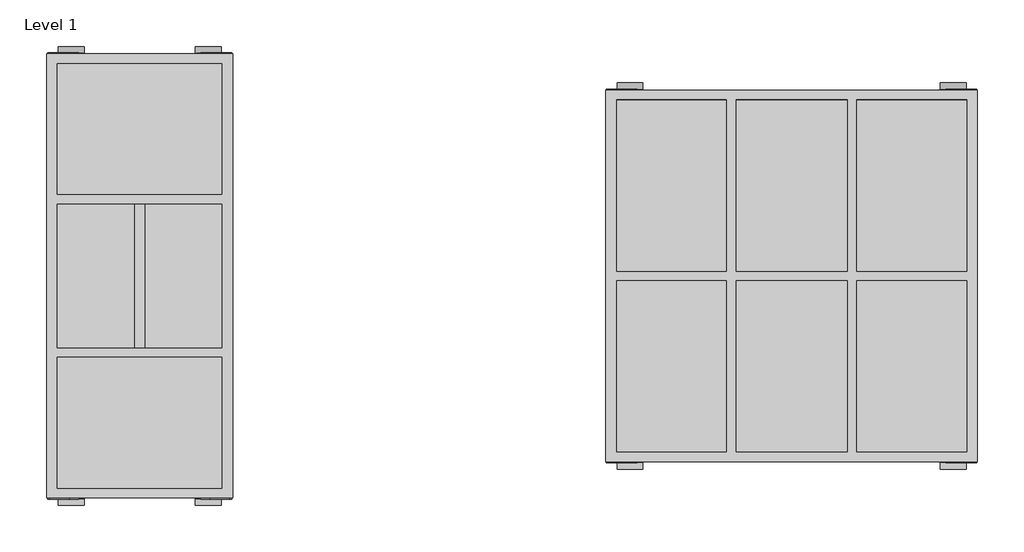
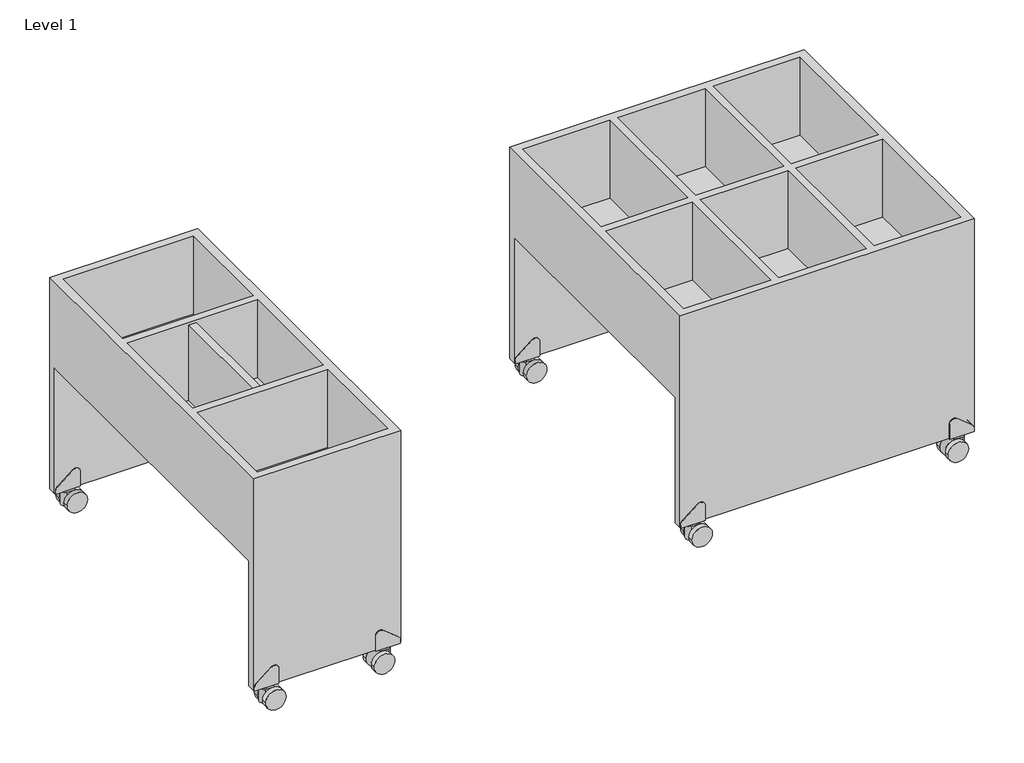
# One storey: 2 furniture elements.
"""IFC4 building model written with IfcOpenShell, lengths in millimetres."""

from ifc_helpers import new_model, si_unit, origin, place, context, project, spatial, transform, mapped, element, save
from components import furniture_59e1d00e, furniture_7b108c40

model = new_model("IFC4")

# Units and contexts
model_context = context("Model", 3, world=origin())
ifc_project = project(units=[si_unit("LENGTHUNIT", "METRE", prefix="MILLI")], contexts=[model_context])

# Site, building, storey
site = spatial("IfcSite", under=ifc_project)
building = spatial("IfcBuilding", under=site)
storey = spatial("IfcBuildingStorey", under=building, Name="Level 1", Elevation=0.0)

# Furniture
placement = place(None, origin())
furniture_shape = furniture_59e1d00e(model_context)
element("IfcFurniture", 1, ObjectType="BK Library - Mille - Bookbrowser Small : BK Library - Mille - Bookbrowser Small", at=placement, inside=storey, context=model_context, shape_type="MappedRepresentation", body=[
    mapped(furniture_shape, transform((-3149.7402318, 2197.9079464, -348.6569781), x_axis=(0.0, 1.0, 0.0), y_axis=(-1.0, 0.0, 0.0), z_axis=(0.0, 0.0, 1.0))),
])
furniture_2_shape = furniture_7b108c40(model_context)
element("IfcFurniture", 2, ObjectType="BK Library - Mille - Bookbrowser Large : BK Library - Mille - Bookbrowser Large", at=placement, inside=storey, context=model_context, shape_type="MappedRepresentation", body=[
    mapped(furniture_2_shape, transform((-1889.7402318, 2197.9079464, -348.6569781), x_axis=(0.0, 1.0, 0.0), y_axis=(-1.0, 0.0, 0.0), z_axis=(0.0, 0.0, 1.0))),
])

save(model, "model.ifc")
